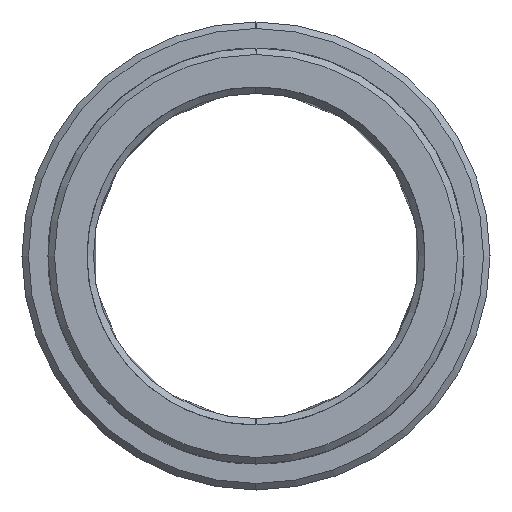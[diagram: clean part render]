
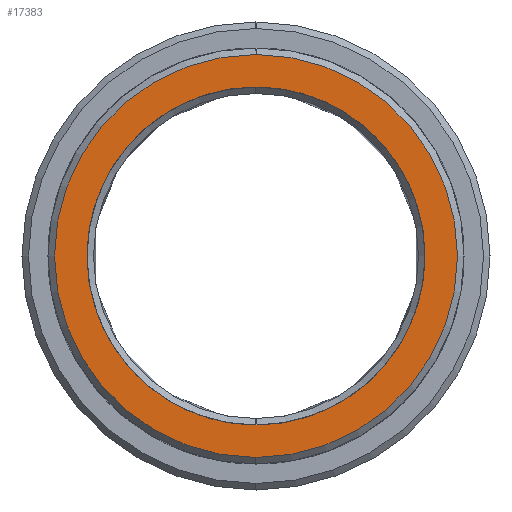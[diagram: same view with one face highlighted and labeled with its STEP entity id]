
A CAD part, left-side view. The second image highlights one B-rep face of the part: STEP entity #17383.
In plain terms, the highlighted planar face has unit normal (1, 0, 0).
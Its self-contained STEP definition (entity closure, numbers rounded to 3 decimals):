
#17300=CARTESIAN_POINT('Axis2P3D Location',(-18.,0.,0.)) ;
#17305=CARTESIAN_POINT('Axis2P3D Location',(-18.,0.,0.)) ;
#17309=CARTESIAN_POINT('Vertex',(-18.,0.,-15.5)) ;
#17311=CARTESIAN_POINT('Vertex',(-18.,0.,15.5)) ;
#17314=CARTESIAN_POINT('Axis2P3D Location',(-18.,0.,0.)) ;
#17324=CARTESIAN_POINT('Control Point',(-18.,0.,13.)) ;
#17325=CARTESIAN_POINT('Control Point',(-18.,1.236,13.)) ;
#17326=CARTESIAN_POINT('Control Point',(-18.,2.473,12.853)) ;
#17327=CARTESIAN_POINT('Control Point',(-18.,3.686,12.559)) ;
#17328=CARTESIAN_POINT('Control Point',(-18.,6.019,11.688)) ;
#17329=CARTESIAN_POINT('Control Point',(-18.,8.083,10.295)) ;
#17330=CARTESIAN_POINT('Control Point',(-18.,9.027,9.478)) ;
#17331=CARTESIAN_POINT('Control Point',(-18.,10.702,7.635)) ;
#17332=CARTESIAN_POINT('Control Point',(-18.,11.899,5.452)) ;
#17333=CARTESIAN_POINT('Control Point',(-18.,12.365,4.293)) ;
#17334=CARTESIAN_POINT('Control Point',(-18.,13.011,1.888)) ;
#17335=CARTESIAN_POINT('Control Point',(-18.,13.075,-0.601)) ;
#17336=CARTESIAN_POINT('Control Point',(-18.,12.958,-1.844)) ;
#17337=CARTESIAN_POINT('Control Point',(-18.,12.432,-4.278)) ;
#17338=CARTESIAN_POINT('Control Point',(-18.,11.349,-6.521)) ;
#17339=CARTESIAN_POINT('Control Point',(-18.,10.676,-7.572)) ;
#17340=CARTESIAN_POINT('Control Point',(-18.,9.093,-9.495)) ;
#17341=CARTESIAN_POINT('Control Point',(-18.,7.104,-10.993)) ;
#17342=CARTESIAN_POINT('Control Point',(-18.,6.025,-11.62)) ;
#17343=CARTESIAN_POINT('Control Point',(-18.,4.188,-12.411)) ;
#17344=CARTESIAN_POINT('Control Point',(-18.,2.243,-12.838)) ;
#17345=CARTESIAN_POINT('Control Point',(-18.,1.499,-12.946)) ;
#17346=CARTESIAN_POINT('Control Point',(-18.,0.749,-13.)) ;
#17347=CARTESIAN_POINT('Control Point',(-18.,0.,-13.)) ;
#17348=CARTESIAN_POINT('Vertex',(-18.,0.,13.)) ;
#17350=CARTESIAN_POINT('Vertex',(-18.,0.,-13.)) ;
#17354=CARTESIAN_POINT('Control Point',(-18.,0.,-13.)) ;
#17355=CARTESIAN_POINT('Control Point',(-18.,-1.236,-13.)) ;
#17356=CARTESIAN_POINT('Control Point',(-18.,-2.473,-12.853)) ;
#17357=CARTESIAN_POINT('Control Point',(-18.,-3.686,-12.559)) ;
#17358=CARTESIAN_POINT('Control Point',(-18.,-6.019,-11.688)) ;
#17359=CARTESIAN_POINT('Control Point',(-18.,-8.083,-10.295)) ;
#17360=CARTESIAN_POINT('Control Point',(-18.,-9.027,-9.478)) ;
#17361=CARTESIAN_POINT('Control Point',(-18.,-10.702,-7.635)) ;
#17362=CARTESIAN_POINT('Control Point',(-18.,-11.899,-5.452)) ;
#17363=CARTESIAN_POINT('Control Point',(-18.,-12.365,-4.293)) ;
#17364=CARTESIAN_POINT('Control Point',(-18.,-13.011,-1.888)) ;
#17365=CARTESIAN_POINT('Control Point',(-18.,-13.075,0.601)) ;
#17366=CARTESIAN_POINT('Control Point',(-18.,-12.958,1.844)) ;
#17367=CARTESIAN_POINT('Control Point',(-18.,-12.432,4.278)) ;
#17368=CARTESIAN_POINT('Control Point',(-18.,-11.349,6.521)) ;
#17369=CARTESIAN_POINT('Control Point',(-18.,-10.676,7.572)) ;
#17370=CARTESIAN_POINT('Control Point',(-18.,-9.093,9.495)) ;
#17371=CARTESIAN_POINT('Control Point',(-18.,-7.104,10.993)) ;
#17372=CARTESIAN_POINT('Control Point',(-18.,-6.025,11.62)) ;
#17373=CARTESIAN_POINT('Control Point',(-18.,-4.188,12.411)) ;
#17374=CARTESIAN_POINT('Control Point',(-18.,-2.243,12.838)) ;
#17375=CARTESIAN_POINT('Control Point',(-18.,-1.499,12.946)) ;
#17376=CARTESIAN_POINT('Control Point',(-18.,-0.749,13.)) ;
#17377=CARTESIAN_POINT('Control Point',(-18.,0.,13.)) ;
#17301=DIRECTION('Axis2P3D Direction',(1.,0.,0.)) ;
#17302=DIRECTION('Axis2P3D XDirection',(0.,1.,0.)) ;
#17306=DIRECTION('Axis2P3D Direction',(1.,0.,0.)) ;
#17315=DIRECTION('Axis2P3D Direction',(1.,0.,0.)) ;
#17303=AXIS2_PLACEMENT_3D('Plane Axis2P3D',#17300,#17301,#17302) ;
#17307=AXIS2_PLACEMENT_3D('Circle Axis2P3D',#17305,#17306,$) ;
#17316=AXIS2_PLACEMENT_3D('Circle Axis2P3D',#17314,#17315,$) ;
#17320=ORIENTED_EDGE('',*,*,#17313,.T.) ;
#17321=ORIENTED_EDGE('',*,*,#17318,.T.) ;
#17380=ORIENTED_EDGE('',*,*,#17352,.T.) ;
#17381=ORIENTED_EDGE('',*,*,#17378,.T.) ;
#17382=FACE_BOUND('',#17379,.T.) ;
#17383=ADVANCED_FACE('MANIFOLD_SOLID_BREP #9397',(#17322,#17382),#17304,.T.) ;
#17323=B_SPLINE_CURVE_WITH_KNOTS('',5,(#17324,#17325,#17326,#17327,#17328,#17329,#17330,#17331,#17332,#17333,#17334,#17335,#17336,#17337,#17338,#17339,#17340,#17341,#17342,#17343,#17344,#17345,#17346,#17347),.UNSPECIFIED.,.F.,.U.,(6,3,3,3,3,3,3,6),(0.,8.743,17.486,26.229,34.972,43.715,52.457,57.757),.UNSPECIFIED.) ;
#17353=B_SPLINE_CURVE_WITH_KNOTS('',5,(#17354,#17355,#17356,#17357,#17358,#17359,#17360,#17361,#17362,#17363,#17364,#17365,#17366,#17367,#17368,#17369,#17370,#17371,#17372,#17373,#17374,#17375,#17376,#17377),.UNSPECIFIED.,.F.,.U.,(6,3,3,3,3,3,3,6),(0.,8.743,17.486,26.229,34.972,43.715,52.457,57.757),.UNSPECIFIED.) ;
#17308=CIRCLE('generated circle',#17307,15.5) ;
#17317=CIRCLE('generated circle',#17316,15.5) ;
#17313=EDGE_CURVE('',#17310,#17312,#17308,.T.) ;
#17318=EDGE_CURVE('',#17312,#17310,#17317,.T.) ;
#17352=EDGE_CURVE('',#17349,#17351,#17323,.T.) ;
#17378=EDGE_CURVE('',#17351,#17349,#17353,.T.) ;
#17319=EDGE_LOOP('',(#17320,#17321)) ;
#17379=EDGE_LOOP('',(#17380,#17381)) ;
#17322=FACE_OUTER_BOUND('',#17319,.T.) ;
#17304=PLANE('Plane',#17303) ;
#17310=VERTEX_POINT('',#17309) ;
#17312=VERTEX_POINT('',#17311) ;
#17349=VERTEX_POINT('',#17348) ;
#17351=VERTEX_POINT('',#17350) ;
